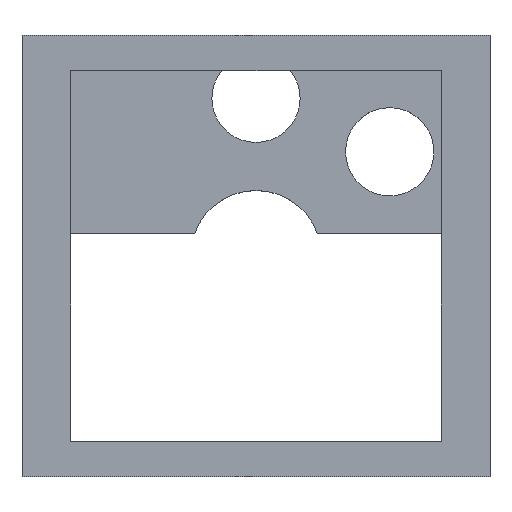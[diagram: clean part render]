
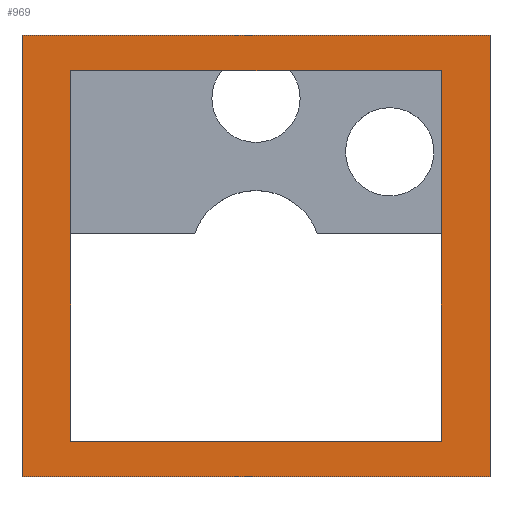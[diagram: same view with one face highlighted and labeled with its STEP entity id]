
A CAD part, top view. The second image highlights one B-rep face of the part: STEP entity #969.
In plain terms, the highlighted planar face has unit normal (0, 0, 1).
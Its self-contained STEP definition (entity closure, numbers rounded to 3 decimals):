
#250 = PLANE('',#251);
#251 = AXIS2_PLACEMENT_3D('',#252,#253,#254);
#252 = CARTESIAN_POINT('',(-6.925,-6.925,-5.));
#253 = DIRECTION('',(0.,1.,0.));
#254 = DIRECTION('',(0.,0.,1.));
#278 = PLANE('',#279);
#279 = AXIS2_PLACEMENT_3D('',#280,#281,#282);
#280 = CARTESIAN_POINT('',(6.925,-6.925,-5.));
#281 = DIRECTION('',(1.,0.,0.));
#282 = DIRECTION('',(0.,0.,1.));
#306 = PLANE('',#307);
#307 = AXIS2_PLACEMENT_3D('',#308,#309,#310);
#308 = CARTESIAN_POINT('',(-6.925,6.925,-5.));
#309 = DIRECTION('',(0.,1.,0.));
#310 = DIRECTION('',(0.,0.,1.));
#332 = PLANE('',#333);
#333 = AXIS2_PLACEMENT_3D('',#334,#335,#336);
#334 = CARTESIAN_POINT('',(-6.925,-6.925,-5.));
#335 = DIRECTION('',(1.,0.,0.));
#336 = DIRECTION('',(0.,0.,1.));
#461 = PLANE('',#462);
#462 = AXIS2_PLACEMENT_3D('',#463,#464,#465);
#463 = CARTESIAN_POINT('',(8.75,8.25,-50.));
#464 = DIRECTION('',(1.,0.,-0.));
#465 = DIRECTION('',(0.,-1.,0.));
#487 = PLANE('',#488);
#488 = AXIS2_PLACEMENT_3D('',#489,#490,#491);
#489 = CARTESIAN_POINT('',(-8.75,8.25,-50.));
#490 = DIRECTION('',(0.,1.,0.));
#491 = DIRECTION('',(1.,0.,0.));
#513 = PLANE('',#514);
#514 = AXIS2_PLACEMENT_3D('',#515,#516,#517);
#515 = CARTESIAN_POINT('',(-8.75,-8.25,-50.));
#516 = DIRECTION('',(-1.,0.,0.));
#517 = DIRECTION('',(0.,1.,0.));
#537 = PLANE('',#538);
#538 = AXIS2_PLACEMENT_3D('',#539,#540,#541);
#539 = CARTESIAN_POINT('',(8.75,-8.25,-50.));
#540 = DIRECTION('',(0.,-1.,0.));
#541 = DIRECTION('',(-1.,0.,0.));
#585 = VERTEX_POINT('',#586);
#586 = CARTESIAN_POINT('',(6.925,-6.925,0.));
#609 = VERTEX_POINT('',#610);
#610 = CARTESIAN_POINT('',(-6.925,-6.925,0.));
#631 = EDGE_CURVE('',#585,#609,#632,.T.);
#632 = SURFACE_CURVE('',#633,(#637,#644),.PCURVE_S1.);
#633 = LINE('',#634,#635);
#634 = CARTESIAN_POINT('',(-7.963,-6.925,0.));
#635 = VECTOR('',#636,1.);
#636 = DIRECTION('',(-1.,0.,0.));
#637 = PCURVE('',#250,#638);
#638 = DEFINITIONAL_REPRESENTATION('',(#639),#643);
#639 = LINE('',#640,#641);
#640 = CARTESIAN_POINT('',(5.,-1.038));
#641 = VECTOR('',#642,1.);
#642 = DIRECTION('',(0.,-1.));
#643 = ( GEOMETRIC_REPRESENTATION_CONTEXT(2) 
PARAMETRIC_REPRESENTATION_CONTEXT() REPRESENTATION_CONTEXT('2D SPACE',''
  ) );
#644 = PCURVE('',#645,#650);
#645 = PLANE('',#646);
#646 = AXIS2_PLACEMENT_3D('',#647,#648,#649);
#647 = CARTESIAN_POINT('',(-9.,-9.,0.));
#648 = DIRECTION('',(0.,0.,1.));
#649 = DIRECTION('',(1.,0.,0.));
#650 = DEFINITIONAL_REPRESENTATION('',(#651),#655);
#651 = LINE('',#652,#653);
#652 = CARTESIAN_POINT('',(1.038,2.075));
#653 = VECTOR('',#654,1.);
#654 = DIRECTION('',(-1.,0.));
#655 = ( GEOMETRIC_REPRESENTATION_CONTEXT(2) 
PARAMETRIC_REPRESENTATION_CONTEXT() REPRESENTATION_CONTEXT('2D SPACE',''
  ) );
#660 = EDGE_CURVE('',#585,#661,#663,.T.);
#661 = VERTEX_POINT('',#662);
#662 = CARTESIAN_POINT('',(6.925,6.925,0.));
#663 = SURFACE_CURVE('',#664,(#668,#675),.PCURVE_S1.);
#664 = LINE('',#665,#666);
#665 = CARTESIAN_POINT('',(6.925,-7.963,0.));
#666 = VECTOR('',#667,1.);
#667 = DIRECTION('',(0.,1.,0.));
#668 = PCURVE('',#278,#669);
#669 = DEFINITIONAL_REPRESENTATION('',(#670),#674);
#670 = LINE('',#671,#672);
#671 = CARTESIAN_POINT('',(5.,1.038));
#672 = VECTOR('',#673,1.);
#673 = DIRECTION('',(0.,-1.));
#674 = ( GEOMETRIC_REPRESENTATION_CONTEXT(2) 
PARAMETRIC_REPRESENTATION_CONTEXT() REPRESENTATION_CONTEXT('2D SPACE',''
  ) );
#675 = PCURVE('',#645,#676);
#676 = DEFINITIONAL_REPRESENTATION('',(#677),#681);
#677 = LINE('',#678,#679);
#678 = CARTESIAN_POINT('',(15.925,1.038));
#679 = VECTOR('',#680,1.);
#680 = DIRECTION('',(0.,1.));
#681 = ( GEOMETRIC_REPRESENTATION_CONTEXT(2) 
PARAMETRIC_REPRESENTATION_CONTEXT() REPRESENTATION_CONTEXT('2D SPACE',''
  ) );
#709 = EDGE_CURVE('',#661,#710,#712,.T.);
#710 = VERTEX_POINT('',#711);
#711 = CARTESIAN_POINT('',(-6.925,6.925,0.));
#712 = SURFACE_CURVE('',#713,(#717,#724),.PCURVE_S1.);
#713 = LINE('',#714,#715);
#714 = CARTESIAN_POINT('',(-7.963,6.925,0.));
#715 = VECTOR('',#716,1.);
#716 = DIRECTION('',(-1.,0.,0.));
#717 = PCURVE('',#306,#718);
#718 = DEFINITIONAL_REPRESENTATION('',(#719),#723);
#719 = LINE('',#720,#721);
#720 = CARTESIAN_POINT('',(5.,-1.038));
#721 = VECTOR('',#722,1.);
#722 = DIRECTION('',(0.,-1.));
#723 = ( GEOMETRIC_REPRESENTATION_CONTEXT(2) 
PARAMETRIC_REPRESENTATION_CONTEXT() REPRESENTATION_CONTEXT('2D SPACE',''
  ) );
#724 = PCURVE('',#645,#725);
#725 = DEFINITIONAL_REPRESENTATION('',(#726),#730);
#726 = LINE('',#727,#728);
#727 = CARTESIAN_POINT('',(1.038,15.925));
#728 = VECTOR('',#729,1.);
#729 = DIRECTION('',(-1.,0.));
#730 = ( GEOMETRIC_REPRESENTATION_CONTEXT(2) 
PARAMETRIC_REPRESENTATION_CONTEXT() REPRESENTATION_CONTEXT('2D SPACE',''
  ) );
#761 = EDGE_CURVE('',#609,#710,#762,.T.);
#762 = SURFACE_CURVE('',#763,(#767,#774),.PCURVE_S1.);
#763 = LINE('',#764,#765);
#764 = CARTESIAN_POINT('',(-6.925,-7.963,0.));
#765 = VECTOR('',#766,1.);
#766 = DIRECTION('',(0.,1.,0.));
#767 = PCURVE('',#332,#768);
#768 = DEFINITIONAL_REPRESENTATION('',(#769),#773);
#769 = LINE('',#770,#771);
#770 = CARTESIAN_POINT('',(5.,1.038));
#771 = VECTOR('',#772,1.);
#772 = DIRECTION('',(0.,-1.));
#773 = ( GEOMETRIC_REPRESENTATION_CONTEXT(2) 
PARAMETRIC_REPRESENTATION_CONTEXT() REPRESENTATION_CONTEXT('2D SPACE',''
  ) );
#774 = PCURVE('',#645,#775);
#775 = DEFINITIONAL_REPRESENTATION('',(#776),#780);
#776 = LINE('',#777,#778);
#777 = CARTESIAN_POINT('',(2.075,1.038));
#778 = VECTOR('',#779,1.);
#779 = DIRECTION('',(0.,1.));
#780 = ( GEOMETRIC_REPRESENTATION_CONTEXT(2) 
PARAMETRIC_REPRESENTATION_CONTEXT() REPRESENTATION_CONTEXT('2D SPACE',''
  ) );
#786 = VERTEX_POINT('',#787);
#787 = CARTESIAN_POINT('',(8.75,-8.25,0.));
#810 = VERTEX_POINT('',#811);
#811 = CARTESIAN_POINT('',(8.75,8.25,0.));
#832 = EDGE_CURVE('',#786,#810,#833,.T.);
#833 = SURFACE_CURVE('',#834,(#838,#844),.PCURVE_S1.);
#834 = LINE('',#835,#836);
#835 = CARTESIAN_POINT('',(8.75,-0.375,0.));
#836 = VECTOR('',#837,1.);
#837 = DIRECTION('',(0.,1.,0.));
#838 = PCURVE('',#461,#839);
#839 = DEFINITIONAL_REPRESENTATION('',(#840),#843);
#840 = B_SPLINE_CURVE_WITH_KNOTS('',1,(#841,#842),.UNSPECIFIED.,.F.,.F.,
  (2,2),(-7.875,8.625),.PIECEWISE_BEZIER_KNOTS.);
#841 = CARTESIAN_POINT('',(16.5,-50.));
#842 = CARTESIAN_POINT('',(0.,-50.));
#843 = ( GEOMETRIC_REPRESENTATION_CONTEXT(2) 
PARAMETRIC_REPRESENTATION_CONTEXT() REPRESENTATION_CONTEXT('2D SPACE',''
  ) );
#844 = PCURVE('',#645,#845);
#845 = DEFINITIONAL_REPRESENTATION('',(#846),#849);
#846 = B_SPLINE_CURVE_WITH_KNOTS('',1,(#847,#848),.UNSPECIFIED.,.F.,.F.,
  (2,2),(-7.875,8.625),.PIECEWISE_BEZIER_KNOTS.);
#847 = CARTESIAN_POINT('',(17.75,0.75));
#848 = CARTESIAN_POINT('',(17.75,17.25));
#849 = ( GEOMETRIC_REPRESENTATION_CONTEXT(2) 
PARAMETRIC_REPRESENTATION_CONTEXT() REPRESENTATION_CONTEXT('2D SPACE',''
  ) );
#856 = EDGE_CURVE('',#857,#786,#859,.T.);
#857 = VERTEX_POINT('',#858);
#858 = CARTESIAN_POINT('',(-8.75,-8.25,0.));
#859 = SURFACE_CURVE('',#860,(#864,#870),.PCURVE_S1.);
#860 = LINE('',#861,#862);
#861 = CARTESIAN_POINT('',(-0.125,-8.25,0.));
#862 = VECTOR('',#863,1.);
#863 = DIRECTION('',(1.,0.,0.));
#864 = PCURVE('',#537,#865);
#865 = DEFINITIONAL_REPRESENTATION('',(#866),#869);
#866 = B_SPLINE_CURVE_WITH_KNOTS('',1,(#867,#868),.UNSPECIFIED.,.F.,.F.,
  (2,2),(-8.625,8.875),.PIECEWISE_BEZIER_KNOTS.);
#867 = CARTESIAN_POINT('',(17.5,-50.));
#868 = CARTESIAN_POINT('',(0.,-50.));
#869 = ( GEOMETRIC_REPRESENTATION_CONTEXT(2) 
PARAMETRIC_REPRESENTATION_CONTEXT() REPRESENTATION_CONTEXT('2D SPACE',''
  ) );
#870 = PCURVE('',#645,#871);
#871 = DEFINITIONAL_REPRESENTATION('',(#872),#875);
#872 = B_SPLINE_CURVE_WITH_KNOTS('',1,(#873,#874),.UNSPECIFIED.,.F.,.F.,
  (2,2),(-8.625,8.875),.PIECEWISE_BEZIER_KNOTS.);
#873 = CARTESIAN_POINT('',(0.25,0.75));
#874 = CARTESIAN_POINT('',(17.75,0.75));
#875 = ( GEOMETRIC_REPRESENTATION_CONTEXT(2) 
PARAMETRIC_REPRESENTATION_CONTEXT() REPRESENTATION_CONTEXT('2D SPACE',''
  ) );
#903 = EDGE_CURVE('',#904,#857,#906,.T.);
#904 = VERTEX_POINT('',#905);
#905 = CARTESIAN_POINT('',(-8.75,8.25,0.));
#906 = SURFACE_CURVE('',#907,(#911,#917),.PCURVE_S1.);
#907 = LINE('',#908,#909);
#908 = CARTESIAN_POINT('',(-8.75,-8.625,0.));
#909 = VECTOR('',#910,1.);
#910 = DIRECTION('',(-0.,-1.,0.));
#911 = PCURVE('',#513,#912);
#912 = DEFINITIONAL_REPRESENTATION('',(#913),#916);
#913 = B_SPLINE_CURVE_WITH_KNOTS('',1,(#914,#915),.UNSPECIFIED.,.F.,.F.,
  (2,2),(-16.875,-0.375),.PIECEWISE_BEZIER_KNOTS.);
#914 = CARTESIAN_POINT('',(16.5,-50.));
#915 = CARTESIAN_POINT('',(0.,-50.));
#916 = ( GEOMETRIC_REPRESENTATION_CONTEXT(2) 
PARAMETRIC_REPRESENTATION_CONTEXT() REPRESENTATION_CONTEXT('2D SPACE',''
  ) );
#917 = PCURVE('',#645,#918);
#918 = DEFINITIONAL_REPRESENTATION('',(#919),#922);
#919 = B_SPLINE_CURVE_WITH_KNOTS('',1,(#920,#921),.UNSPECIFIED.,.F.,.F.,
  (2,2),(-16.875,-0.375),.PIECEWISE_BEZIER_KNOTS.);
#920 = CARTESIAN_POINT('',(0.25,17.25));
#921 = CARTESIAN_POINT('',(0.25,0.75));
#922 = ( GEOMETRIC_REPRESENTATION_CONTEXT(2) 
PARAMETRIC_REPRESENTATION_CONTEXT() REPRESENTATION_CONTEXT('2D SPACE',''
  ) );
#950 = EDGE_CURVE('',#810,#904,#951,.T.);
#951 = SURFACE_CURVE('',#952,(#956,#962),.PCURVE_S1.);
#952 = LINE('',#953,#954);
#953 = CARTESIAN_POINT('',(-8.875,8.25,0.));
#954 = VECTOR('',#955,1.);
#955 = DIRECTION('',(-1.,0.,0.));
#956 = PCURVE('',#487,#957);
#957 = DEFINITIONAL_REPRESENTATION('',(#958),#961);
#958 = B_SPLINE_CURVE_WITH_KNOTS('',1,(#959,#960),.UNSPECIFIED.,.F.,.F.,
  (2,2),(-17.625,-0.125),.PIECEWISE_BEZIER_KNOTS.);
#959 = CARTESIAN_POINT('',(17.5,-50.));
#960 = CARTESIAN_POINT('',(0.,-50.));
#961 = ( GEOMETRIC_REPRESENTATION_CONTEXT(2) 
PARAMETRIC_REPRESENTATION_CONTEXT() REPRESENTATION_CONTEXT('2D SPACE',''
  ) );
#962 = PCURVE('',#645,#963);
#963 = DEFINITIONAL_REPRESENTATION('',(#964),#967);
#964 = B_SPLINE_CURVE_WITH_KNOTS('',1,(#965,#966),.UNSPECIFIED.,.F.,.F.,
  (2,2),(-17.625,-0.125),.PIECEWISE_BEZIER_KNOTS.);
#965 = CARTESIAN_POINT('',(17.75,17.25));
#966 = CARTESIAN_POINT('',(0.25,17.25));
#967 = ( GEOMETRIC_REPRESENTATION_CONTEXT(2) 
PARAMETRIC_REPRESENTATION_CONTEXT() REPRESENTATION_CONTEXT('2D SPACE',''
  ) );
#969 = ADVANCED_FACE('',(#970,#976),#645,.T.);
#970 = FACE_BOUND('',#971,.T.);
#971 = EDGE_LOOP('',(#972,#973,#974,#975));
#972 = ORIENTED_EDGE('',*,*,#832,.T.);
#973 = ORIENTED_EDGE('',*,*,#950,.T.);
#974 = ORIENTED_EDGE('',*,*,#903,.T.);
#975 = ORIENTED_EDGE('',*,*,#856,.T.);
#976 = FACE_BOUND('',#977,.T.);
#977 = EDGE_LOOP('',(#978,#979,#980,#981));
#978 = ORIENTED_EDGE('',*,*,#631,.T.);
#979 = ORIENTED_EDGE('',*,*,#761,.T.);
#980 = ORIENTED_EDGE('',*,*,#709,.F.);
#981 = ORIENTED_EDGE('',*,*,#660,.F.);
